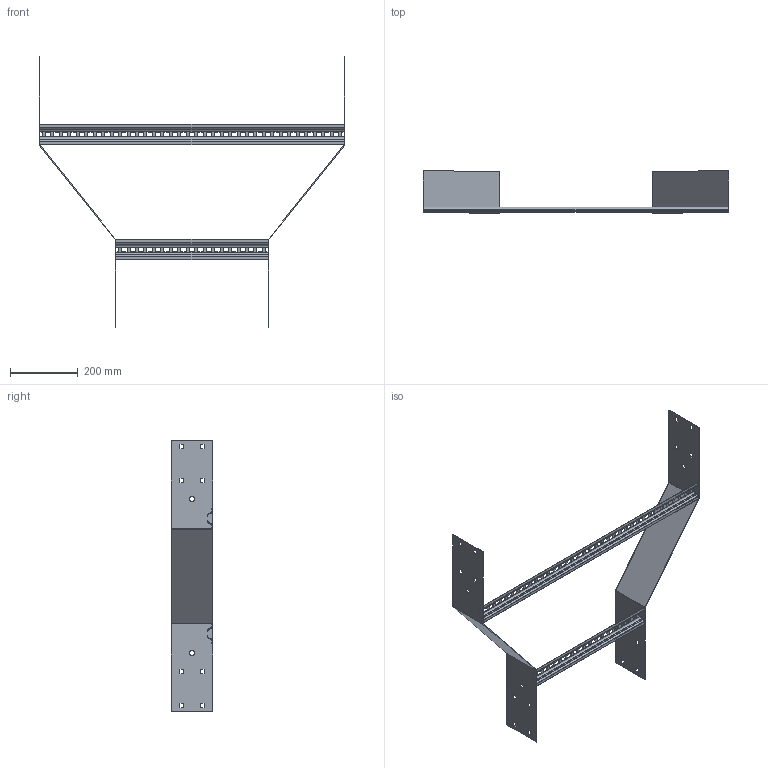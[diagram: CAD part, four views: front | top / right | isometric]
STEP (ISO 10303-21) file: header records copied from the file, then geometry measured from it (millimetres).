
FILE_DESCRIPTION (( 'STEP AP203' ), '1' );
FILE_NAME ('N3 SR 900450.STEP', '2024-08-27T20:31:44', ( '' ), ( '' ), 'SwSTEP 2.0', 'SolidWorks 2023', '' );
FILE_SCHEMA (( 'CONFIG_CONTROL_DESIGN' ));
Length unit declared in the file: millimetre
Products named in the file (4): N3 SR 900450; Ladder Rung_Ladder Rung -  900mm; Ladder Rung_Ladder Rung -  450mm; N3 Reducer side plate_SR450x900
Assembly tree (4 placements, depth 2):
  N3 SR 900450
    N3 Reducer side plate_SR450x900  x2
    Ladder Rung_Ladder Rung -  450mm
    Ladder Rung_Ladder Rung -  900mm
Bounding box: 904 x 124 x 800 mm (x, y, z)
Volume: 574237.6 mm3; surface area: 629885.1 mm2
Topology: 4 solids, 4 shells, 416 faces, 1128 edges, 720 vertices
Faces by surface type: plane 384, cylinder 32
Entity records: 11702 total; most frequent: CARTESIAN_POINT 1965, ORIENTED_EDGE 1952, DIRECTION 1754, EDGE_CURVE 976, VECTOR 928, LINE 928, VERTEX_POINT 624, EDGE_LOOP 482
